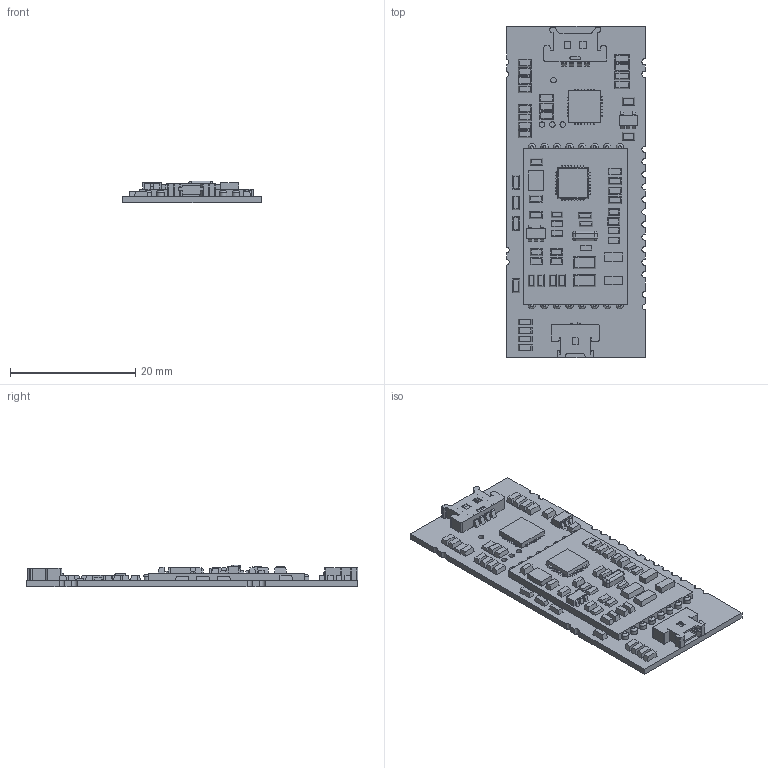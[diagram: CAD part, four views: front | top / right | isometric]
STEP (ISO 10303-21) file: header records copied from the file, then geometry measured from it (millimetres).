
FILE_DESCRIPTION(/* description */ (''),/* implementation_level */ '2;1');
FILE_NAME(/* name */ 'OEM-M890-USB_07-ausg.stp',/* time_stamp */ '2020-03-16T17:55:29+01:00',/* author */ (''),/* organization */ (''),/* preprocessor_version */ 'ST-DEVELOPER v16.7',/* originating_system */ 'SIEMENS PLM Software NX 12.0',/* authorisation */ '');
FILE_SCHEMA (('AUTOMOTIVE_DESIGN { 1 0 10303 214 3 1 1 1 }'));
Length unit declared in the file: millimetre
Products named in the file (1): rees99E0BCF0a5d0
Bounding box: 22 x 52.84 x 3.5 mm (x, y, z)
Volume: 1904.6 mm3; surface area: 4616.3 mm2
Topology: 156 solids, 156 shells, 1330 faces, 2889 edges, 1864 vertices
Faces by surface type: plane 944, cylinder 306, bspline 44, sphere 36
Full cylindrical faces by diameter (mm): 0.881 x3, 0.896 x1
Entity records: 37790 total; most frequent: CARTESIAN_POINT 7523, DIRECTION 6057, ORIENTED_EDGE 5746, EDGE_CURVE 2873, LINE 2169, VECTOR 2169, AXIS2_PLACEMENT_3D 1944, VERTEX_POINT 1864
